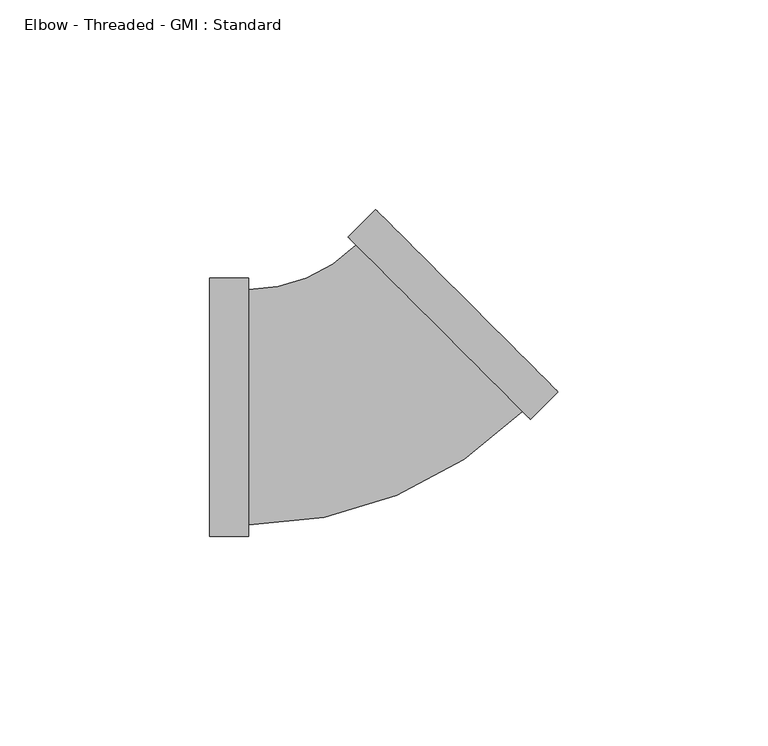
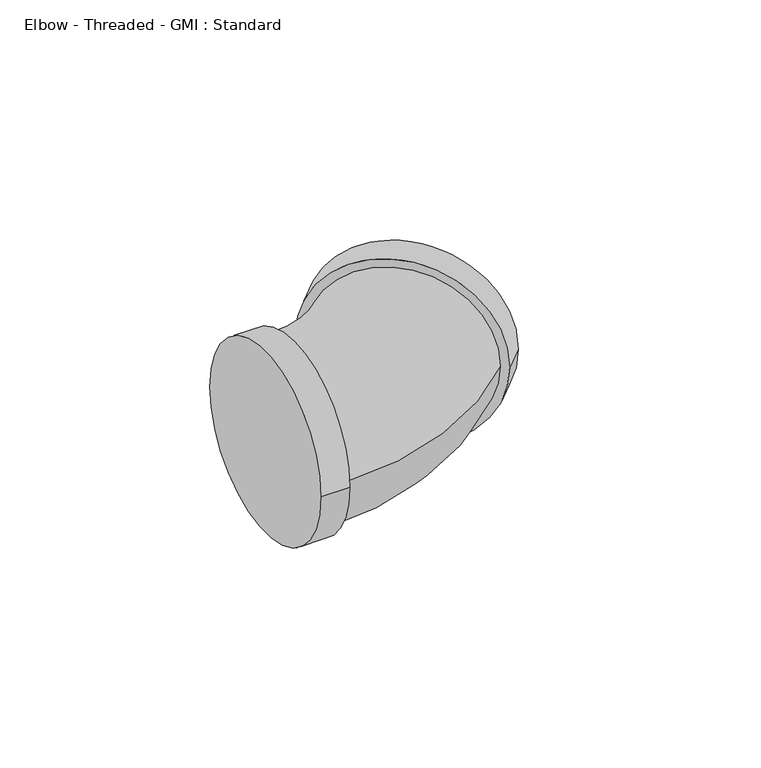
"""IFC4 building model written with IfcOpenShell, lengths in millimetres: pipe fitting geometry, Elbow - Threaded - GMI : Standard."""

from ifc_helpers import new_model, si_unit, point, frame, origin, place, context, project, spatial, circle_curve, ellipse_curve, trimmed, source, transform, mapped, element, save
from ifc_brep_helpers import plane_surface, cylinder_surface, revolved_surface, advanced_brep


def elbow_threaded_gmi_standard_ed3843ac(model_context):
    return source(origin(), model_context, "Body", "AdvancedBrep", [
        advanced_brep(
        [(-36.0, -30.8, 0.0), (-36.0, 30.8, 0.0), (-26.7, -30.8, 0.0), (-26.7, 30.8, 0.0), (-26.7, -28.09, 0.0), (-26.7, 28.09, 0.0), (40.6586399, -2.8991378, 0.0), (-2.8991378, 40.6586399, 0.0), (-0.9828784, 38.7423805, 0.0), (38.7423805, -0.9828784, 0.0), (47.234733, 3.6769553, 0.0), (3.6769553, 47.234733, 0.0)],
        [
            (0, 1, circle_curve(frame((-36.0, 0.0, 0.0), z_axis=(-1.0, 0.0, 0.0), x_axis=(0.0, 1.0, 0.0)), 30.8)),
            (1, 0, circle_curve(frame((-36.0, 0.0, 0.0), z_axis=(-1.0, 0.0, 0.0), x_axis=(0.0, 1.0, 0.0)), 30.8)),
            (2, 3, circle_curve(frame((-26.7, 0.0, 0.0), z_axis=(1.0, 0.0, 0.0), x_axis=(0.0, 1.0, 0.0)), 30.8)),
            (3, 2, circle_curve(frame((-26.7, 0.0, 0.0), z_axis=(1.0, 0.0, 0.0), x_axis=(0.0, 1.0, 0.0)), 30.8)),
            (4, 5, circle_curve(frame((-26.7, 0.0, 0.0), z_axis=(-1.0, 0.0, 0.0), x_axis=(0.0, 1.0, 0.0)), 28.09)),
            (5, 4, circle_curve(frame((-26.7, 0.0, 0.0), z_axis=(-1.0, 0.0, 0.0), x_axis=(0.0, 1.0, 0.0)), 28.09)),
            (0, 2),
            (3, 1),
            (6, 7, circle_curve(frame((18.8797511, 18.8797511, 0.0), z_axis=(-0.7071067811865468, -0.7071067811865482, 0.0), x_axis=(-0.7071067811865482, 0.7071067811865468, 0.0)), 30.8)),
            (7, 6, circle_curve(frame((18.8797511, 18.8797511, 0.0), z_axis=(-0.7071067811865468, -0.7071067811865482, 0.0), x_axis=(-0.7071067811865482, 0.7071067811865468, 0.0)), 30.8)),
            (8, 9, circle_curve(frame((18.8797511, 18.8797511, 0.0), z_axis=(0.7071067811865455, 0.7071067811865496, 0.0), x_axis=(-0.7071067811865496, 0.7071067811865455, 0.0)), 28.09)),
            (9, 8, circle_curve(frame((18.8797511, 18.8797511, 0.0), z_axis=(0.7071067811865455, 0.7071067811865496, 0.0), x_axis=(-0.7071067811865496, 0.7071067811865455, 0.0)), 28.09)),
            (10, 11, circle_curve(frame((25.4558441, 25.4558441, 0.0), z_axis=(0.7071067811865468, 0.7071067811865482, 0.0), x_axis=(-0.7071067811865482, 0.7071067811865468, 0.0)), 30.8)),
            (11, 10, circle_curve(frame((25.4558441, 25.4558441, 0.0), z_axis=(0.7071067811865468, 0.7071067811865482, 0.0), x_axis=(-0.7071067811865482, 0.7071067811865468, 0.0)), 30.8)),
            (6, 10),
            (11, 7),
            (8, 5, circle_curve(frame((-26.7, 64.4595021, 0.0), z_axis=(0.0, 0.0, -1.0), x_axis=(0.0, -1.0, 0.0)), 36.3695021)),
            (4, 9, circle_curve(frame((-26.7, 64.4595021, 0.0), z_axis=(0.0, 0.0, 1.0), x_axis=(0.0, -1.0, 0.0)), 92.5495021)),
        ],
        [
            plane_surface(frame((-36.0, 0.0, 0.0), z_axis=(-1.0, 0.0, 0.0), x_axis=(0.0, 0.0, 1.0))),
            plane_surface(frame((-26.7, 0.0, 0.0), z_axis=(1.0, 0.0, 0.0), x_axis=(0.0, 0.0, 1.0))),
            cylinder_surface(frame((-36.0, 0.0, 0.0), z_axis=(-1.0, 0.0, 0.0), x_axis=(0.0, 1.0, 0.0)), 30.8),
            plane_surface(frame((18.8797511, 18.8797511, 0.0), z_axis=(-0.7071067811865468, -0.7071067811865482, 0.0), x_axis=(0.0, 0.0, 1.0))),
            plane_surface(frame((25.4558441, 25.4558441, 0.0), z_axis=(0.7071067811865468, 0.7071067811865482, 0.0), x_axis=(0.0, 0.0, 1.0))),
            cylinder_surface(frame((18.8797511, 18.8797511, 0.0), z_axis=(-0.7071067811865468, -0.7071067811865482, 0.0), x_axis=(-0.7071067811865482, 0.7071067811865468, 0.0)), 30.8),
            revolved_surface(trimmed(ellipse_curve(frame((-26.7, 0.0, 0.0), z_axis=(-1.0, 0.0, 0.0), x_axis=(0.0, 1.0, 0.0)), 28.09, 28.09), [point((-26.7, -28.09, 0.0))], [point((-26.7, 28.09, 0.0))], True, "CARTESIAN"), (-26.7, 64.4595021, 0.0), (0.0, 0.0, 1.0)),
            revolved_surface(trimmed(ellipse_curve(frame((-26.7, 0.0, 0.0), z_axis=(-1.0, 0.0, 0.0), x_axis=(0.0, 1.0, 0.0)), 28.09, 28.09), [point((-26.7, 28.09, 0.0))], [point((-26.7, -28.09, 0.0))], True, "CARTESIAN"), (-26.7, 64.4595021, 0.0), (0.0, 0.0, 1.0)),
        ],
        [
            (0, [[1, 2]]),
            (1, [[3, 4], [5, 6]]),
            (2, [[-1, 7, -4, 8]]),
            (2, [[-2, -8, -3, -7]]),
            (3, [[9, 10], [11, 12]]),
            (4, [[13, 14]]),
            (5, [[-9, 15, -14, 16]]),
            (5, [[-10, -16, -13, -15]]),
            (6, [[17, -5, 18, -11]]),
            (7, [[-17, -12, -18, -6]]),
        ],
    ),
    ])


if __name__ == "__main__":
    model = new_model("IFC4")
    model_context = context("Model", 3, world=origin())
    ifc_project = project(units=[si_unit("LENGTHUNIT", "METRE", prefix="MILLI")], contexts=[model_context])
    site = spatial("IfcSite", under=ifc_project)
    building = spatial("IfcBuilding", under=site)
    placement = place(None, origin())
    elbow_threaded_gmi_standard_shape = elbow_threaded_gmi_standard_ed3843ac(model_context)
    element("IfcPipeFitting", 1, ObjectType="Elbow - Threaded - GMI : Standard", at=placement, inside=building, context=model_context, shape_type="MappedRepresentation", body=[
        mapped(elbow_threaded_gmi_standard_shape, transform((0.0, 0.0, 0.0), x_axis=(1.0, 0.0, 0.0), y_axis=(0.0, 1.0, 0.0), z_axis=(0.0, 0.0, 1.0))),
    ])
    save(model, "model.ifc")
